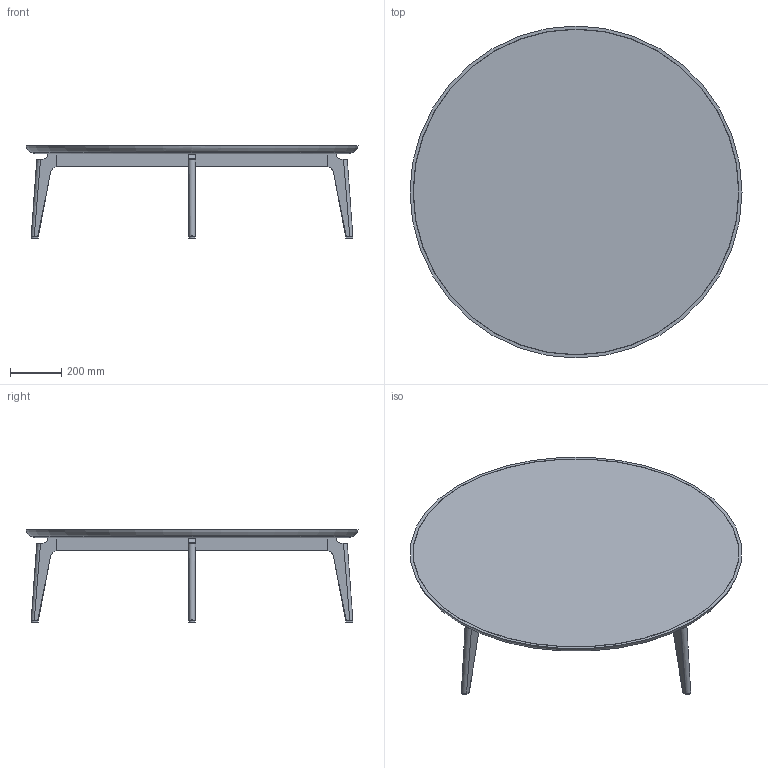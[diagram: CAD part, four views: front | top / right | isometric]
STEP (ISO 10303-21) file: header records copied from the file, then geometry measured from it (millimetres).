
FILE_DESCRIPTION(/* description */ (''),/* implementation_level */ '2;1');
FILE_NAME(/* name */ 'C:\Users\ronnie\Desktop\BLEND (Colombo)\56645-6-7-8-9 BLEND D130 (bronze base).stp',/* time_stamp */ '2016-07-25T13:56:11+02:00',/* author */ ('ronnie'),/* organization */ (''),/* preprocessor_version */ 'ST-DEVELOPER v16.5',/* originating_system */ 'AutoCAD Mechanical',/* authorisation */ '');
FILE_SCHEMA (('AUTOMOTIVE_DESIGN { 1 0 10303 214 3 1 1 }'));
Length unit declared in the file: millimetre
Products named in the file (1): Product
Bounding box: 1300 x 1300 x 362 mm (x, y, z)
Volume: 20564913.3 mm3; surface area: 3989207.8 mm2
Topology: 11 solids, 11 shells, 170 faces, 385 edges, 251 vertices
Faces by surface type: plane 92, cylinder 44, bspline 32, torus 2
Full cylindrical faces by diameter (mm): 3 x8, 1120 x1, 1220 x1, 1274 x1, 1276 x1
Entity records: 5905 total; most frequent: CARTESIAN_POINT 2201, ORIENTED_EDGE 742, DIRECTION 720, EDGE_CURVE 371, AXIS2_PLACEMENT_3D 262, VERTEX_POINT 251, EDGE_LOOP 200, LINE 196
